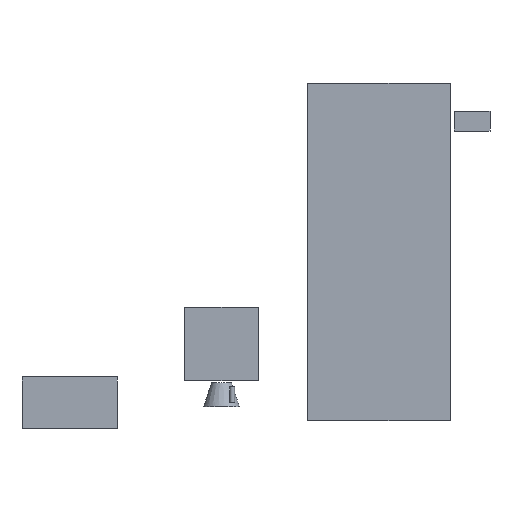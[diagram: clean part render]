
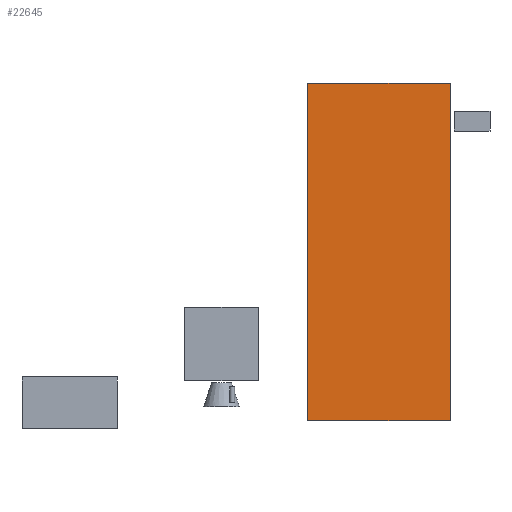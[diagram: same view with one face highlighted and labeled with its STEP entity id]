
A CAD part, front view. The second image highlights one B-rep face of the part: STEP entity #22645.
In plain terms, the highlighted planar face has unit normal (0, -1, 0).
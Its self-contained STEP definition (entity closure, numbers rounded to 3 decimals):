
#22429 = EDGE_CURVE('',#22430,#22432,#22434,.T.);
#22430 = VERTEX_POINT('',#22431);
#22431 = CARTESIAN_POINT('',(-180.,-36.,-80.));
#22432 = VERTEX_POINT('',#22433);
#22433 = CARTESIAN_POINT('',(-180.,-36.,770.));
#22434 = SURFACE_CURVE('',#22435,(#22439,#22451),.PCURVE_S1.);
#22435 = LINE('',#22436,#22437);
#22436 = CARTESIAN_POINT('',(-180.,-36.,-80.));
#22437 = VECTOR('',#22438,1.);
#22438 = DIRECTION('',(0.,0.,1.));
#22439 = PCURVE('',#22440,#22445);
#22440 = PLANE('',#22441);
#22441 = AXIS2_PLACEMENT_3D('',#22442,#22443,#22444);
#22442 = CARTESIAN_POINT('',(-180.,-36.,-80.));
#22443 = DIRECTION('',(1.,0.,0.));
#22444 = DIRECTION('',(0.,0.,1.));
#22445 = DEFINITIONAL_REPRESENTATION('',(#22446),#22450);
#22446 = LINE('',#22447,#22448);
#22447 = CARTESIAN_POINT('',(0.,0.));
#22448 = VECTOR('',#22449,1.);
#22449 = DIRECTION('',(1.,0.));
#22450 = ( GEOMETRIC_REPRESENTATION_CONTEXT(2) 
PARAMETRIC_REPRESENTATION_CONTEXT() REPRESENTATION_CONTEXT('2D SPACE',''
  ) );
#22451 = PCURVE('',#22452,#22457);
#22452 = PLANE('',#22453);
#22453 = AXIS2_PLACEMENT_3D('',#22454,#22455,#22456);
#22454 = CARTESIAN_POINT('',(-180.,-36.,-80.));
#22455 = DIRECTION('',(0.,1.,0.));
#22456 = DIRECTION('',(0.,0.,1.));
#22457 = DEFINITIONAL_REPRESENTATION('',(#22458),#22462);
#22458 = LINE('',#22459,#22460);
#22459 = CARTESIAN_POINT('',(0.,0.));
#22460 = VECTOR('',#22461,1.);
#22461 = DIRECTION('',(1.,0.));
#22462 = ( GEOMETRIC_REPRESENTATION_CONTEXT(2) 
PARAMETRIC_REPRESENTATION_CONTEXT() REPRESENTATION_CONTEXT('2D SPACE',''
  ) );
#22480 = PLANE('',#22481);
#22481 = AXIS2_PLACEMENT_3D('',#22482,#22483,#22484);
#22482 = CARTESIAN_POINT('',(-180.,-36.,-80.));
#22483 = DIRECTION('',(0.,0.,1.));
#22484 = DIRECTION('',(1.,0.,0.));
#22534 = PLANE('',#22535);
#22535 = AXIS2_PLACEMENT_3D('',#22536,#22537,#22538);
#22536 = CARTESIAN_POINT('',(-180.,-36.,770.));
#22537 = DIRECTION('',(0.,0.,1.));
#22538 = DIRECTION('',(1.,0.,0.));
#22549 = EDGE_CURVE('',#22550,#22552,#22554,.T.);
#22550 = VERTEX_POINT('',#22551);
#22551 = CARTESIAN_POINT('',(180.,-36.,-80.));
#22552 = VERTEX_POINT('',#22553);
#22553 = CARTESIAN_POINT('',(180.,-36.,770.));
#22554 = SURFACE_CURVE('',#22555,(#22559,#22571),.PCURVE_S1.);
#22555 = LINE('',#22556,#22557);
#22556 = CARTESIAN_POINT('',(180.,-36.,-80.));
#22557 = VECTOR('',#22558,1.);
#22558 = DIRECTION('',(0.,0.,1.));
#22559 = PCURVE('',#22560,#22565);
#22560 = PLANE('',#22561);
#22561 = AXIS2_PLACEMENT_3D('',#22562,#22563,#22564);
#22562 = CARTESIAN_POINT('',(180.,-36.,-80.));
#22563 = DIRECTION('',(1.,0.,0.));
#22564 = DIRECTION('',(0.,0.,1.));
#22565 = DEFINITIONAL_REPRESENTATION('',(#22566),#22570);
#22566 = LINE('',#22567,#22568);
#22567 = CARTESIAN_POINT('',(0.,0.));
#22568 = VECTOR('',#22569,1.);
#22569 = DIRECTION('',(1.,0.));
#22570 = ( GEOMETRIC_REPRESENTATION_CONTEXT(2) 
PARAMETRIC_REPRESENTATION_CONTEXT() REPRESENTATION_CONTEXT('2D SPACE',''
  ) );
#22571 = PCURVE('',#22452,#22572);
#22572 = DEFINITIONAL_REPRESENTATION('',(#22573),#22577);
#22573 = LINE('',#22574,#22575);
#22574 = CARTESIAN_POINT('',(0.,360.));
#22575 = VECTOR('',#22576,1.);
#22576 = DIRECTION('',(1.,0.));
#22577 = ( GEOMETRIC_REPRESENTATION_CONTEXT(2) 
PARAMETRIC_REPRESENTATION_CONTEXT() REPRESENTATION_CONTEXT('2D SPACE',''
  ) );
#22645 = ADVANCED_FACE('',(#22646),#22452,.F.);
#22646 = FACE_BOUND('',#22647,.F.);
#22647 = EDGE_LOOP('',(#22648,#22669,#22670,#22691));
#22648 = ORIENTED_EDGE('',*,*,#22649,.F.);
#22649 = EDGE_CURVE('',#22430,#22550,#22650,.T.);
#22650 = SURFACE_CURVE('',#22651,(#22655,#22662),.PCURVE_S1.);
#22651 = LINE('',#22652,#22653);
#22652 = CARTESIAN_POINT('',(-180.,-36.,-80.));
#22653 = VECTOR('',#22654,1.);
#22654 = DIRECTION('',(1.,0.,0.));
#22655 = PCURVE('',#22452,#22656);
#22656 = DEFINITIONAL_REPRESENTATION('',(#22657),#22661);
#22657 = LINE('',#22658,#22659);
#22658 = CARTESIAN_POINT('',(0.,0.));
#22659 = VECTOR('',#22660,1.);
#22660 = DIRECTION('',(0.,1.));
#22661 = ( GEOMETRIC_REPRESENTATION_CONTEXT(2) 
PARAMETRIC_REPRESENTATION_CONTEXT() REPRESENTATION_CONTEXT('2D SPACE',''
  ) );
#22662 = PCURVE('',#22480,#22663);
#22663 = DEFINITIONAL_REPRESENTATION('',(#22664),#22668);
#22664 = LINE('',#22665,#22666);
#22665 = CARTESIAN_POINT('',(0.,0.));
#22666 = VECTOR('',#22667,1.);
#22667 = DIRECTION('',(1.,0.));
#22668 = ( GEOMETRIC_REPRESENTATION_CONTEXT(2) 
PARAMETRIC_REPRESENTATION_CONTEXT() REPRESENTATION_CONTEXT('2D SPACE',''
  ) );
#22669 = ORIENTED_EDGE('',*,*,#22429,.T.);
#22670 = ORIENTED_EDGE('',*,*,#22671,.T.);
#22671 = EDGE_CURVE('',#22432,#22552,#22672,.T.);
#22672 = SURFACE_CURVE('',#22673,(#22677,#22684),.PCURVE_S1.);
#22673 = LINE('',#22674,#22675);
#22674 = CARTESIAN_POINT('',(-180.,-36.,770.));
#22675 = VECTOR('',#22676,1.);
#22676 = DIRECTION('',(1.,0.,0.));
#22677 = PCURVE('',#22452,#22678);
#22678 = DEFINITIONAL_REPRESENTATION('',(#22679),#22683);
#22679 = LINE('',#22680,#22681);
#22680 = CARTESIAN_POINT('',(850.,0.));
#22681 = VECTOR('',#22682,1.);
#22682 = DIRECTION('',(0.,1.));
#22683 = ( GEOMETRIC_REPRESENTATION_CONTEXT(2) 
PARAMETRIC_REPRESENTATION_CONTEXT() REPRESENTATION_CONTEXT('2D SPACE',''
  ) );
#22684 = PCURVE('',#22534,#22685);
#22685 = DEFINITIONAL_REPRESENTATION('',(#22686),#22690);
#22686 = LINE('',#22687,#22688);
#22687 = CARTESIAN_POINT('',(0.,0.));
#22688 = VECTOR('',#22689,1.);
#22689 = DIRECTION('',(1.,0.));
#22690 = ( GEOMETRIC_REPRESENTATION_CONTEXT(2) 
PARAMETRIC_REPRESENTATION_CONTEXT() REPRESENTATION_CONTEXT('2D SPACE',''
  ) );
#22691 = ORIENTED_EDGE('',*,*,#22549,.F.);
